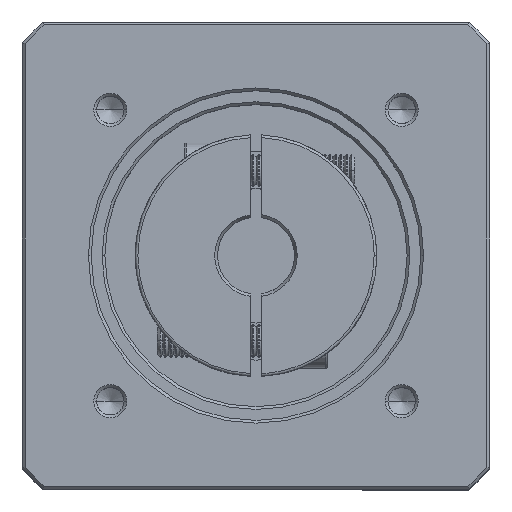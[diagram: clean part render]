
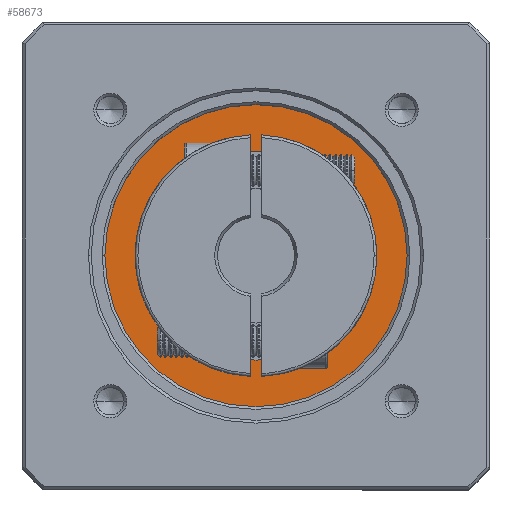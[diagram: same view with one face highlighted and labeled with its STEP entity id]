
A CAD part, top view. The second image highlights one B-rep face of the part: STEP entity #58673.
In plain terms, the highlighted planar face has unit normal (0, 0, 1).
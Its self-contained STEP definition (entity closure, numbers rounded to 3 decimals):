
#1721 = AXIS2_PLACEMENT_3D ( 'NONE', #60772, #8546, #69524 ) ;
#2987 = CARTESIAN_POINT ( 'NONE',  ( -121.014, 27.386, 11.447 ) ) ;
#3726 = DIRECTION ( 'NONE',  ( 1., 0., 0. ) ) ;
#4302 = DIRECTION ( 'NONE',  ( 0., 0., -1. ) ) ;
#8546 = DIRECTION ( 'NONE',  ( 0., 0., 1. ) ) ;
#12030 = PLANE ( 'NONE',  #18020 ) ;
#14442 = EDGE_LOOP ( 'NONE', ( #40173, #102695 ) ) ;
#17738 = CARTESIAN_POINT ( 'NONE',  ( -74.514, 27.386, 11.447 ) ) ;
#18020 = AXIS2_PLACEMENT_3D ( 'NONE', #108124, #55941, #3726 ) ;
#21033 = EDGE_LOOP ( 'NONE', ( #35325, #60951 ) ) ;
#21749 = VERTEX_POINT ( 'NONE', #2987 ) ;
#23102 = EDGE_CURVE ( 'NONE', #70661, #36305, #88578, .T. ) ;
#24243 = EDGE_CURVE ( 'NONE', #21749, #26323, #66943, .T. ) ;
#26323 = VERTEX_POINT ( 'NONE', #39117 ) ;
#30862 = CARTESIAN_POINT ( 'NONE',  ( -93.514, 27.386, 11.447 ) ) ;
#35325 = ORIENTED_EDGE ( 'NONE', *, *, #23102, .T. ) ;
#36305 = VERTEX_POINT ( 'NONE', #17738 ) ;
#38635 = EDGE_CURVE ( 'NONE', #36305, #70661, #52244, .T. ) ;
#39117 = CARTESIAN_POINT ( 'NONE',  ( -66.014, 27.386, 11.447 ) ) ;
#39723 = DIRECTION ( 'NONE',  ( -1., 0., 0. ) ) ;
#40173 = ORIENTED_EDGE ( 'NONE', *, *, #24243, .T. ) ;
#41704 = CIRCLE ( 'NONE', #111286, 27.5 ) ;
#47901 = FACE_BOUND ( 'NONE', #21033, .T. ) ;
#50989 = CARTESIAN_POINT ( 'NONE',  ( -93.514, 27.386, 11.447 ) ) ;
#52244 = CIRCLE ( 'NONE', #99201, 19. ) ;
#55941 = DIRECTION ( 'NONE',  ( 0., 0., 1. ) ) ;
#56515 = CARTESIAN_POINT ( 'NONE',  ( -93.514, 27.386, 11.447 ) ) ;
#58673 = ADVANCED_FACE ( 'NONE', ( #94225, #47901 ), #12030, .T. ) ;
#59684 = DIRECTION ( 'NONE',  ( -1., 0., 0. ) ) ;
#60772 = CARTESIAN_POINT ( 'NONE',  ( -93.514, 27.386, 11.447 ) ) ;
#60951 = ORIENTED_EDGE ( 'NONE', *, *, #38635, .T. ) ;
#65294 = DIRECTION ( 'NONE',  ( -1., 0., 0. ) ) ;
#66943 = CIRCLE ( 'NONE', #1721, 27.5 ) ;
#69524 = DIRECTION ( 'NONE',  ( -1., 0., 0. ) ) ;
#70661 = VERTEX_POINT ( 'NONE', #90902 ) ;
#73184 = AXIS2_PLACEMENT_3D ( 'NONE', #30862, #91869, #39723 ) ;
#88578 = CIRCLE ( 'NONE', #73184, 19. ) ;
#90902 = CARTESIAN_POINT ( 'NONE',  ( -112.514, 27.386, 11.447 ) ) ;
#91869 = DIRECTION ( 'NONE',  ( 0., 0., -1. ) ) ;
#94225 = FACE_OUTER_BOUND ( 'NONE', #14442, .T. ) ;
#96622 = EDGE_CURVE ( 'NONE', #26323, #21749, #41704, .T. ) ;
#99201 = AXIS2_PLACEMENT_3D ( 'NONE', #56515, #4302, #65294 ) ;
#102695 = ORIENTED_EDGE ( 'NONE', *, *, #96622, .T. ) ;
#108124 = CARTESIAN_POINT ( 'NONE',  ( -93.514, 27.386, 11.447 ) ) ;
#111286 = AXIS2_PLACEMENT_3D ( 'NONE', #50989, #111888, #59684 ) ;
#111888 = DIRECTION ( 'NONE',  ( 0., 0., 1. ) ) ;
